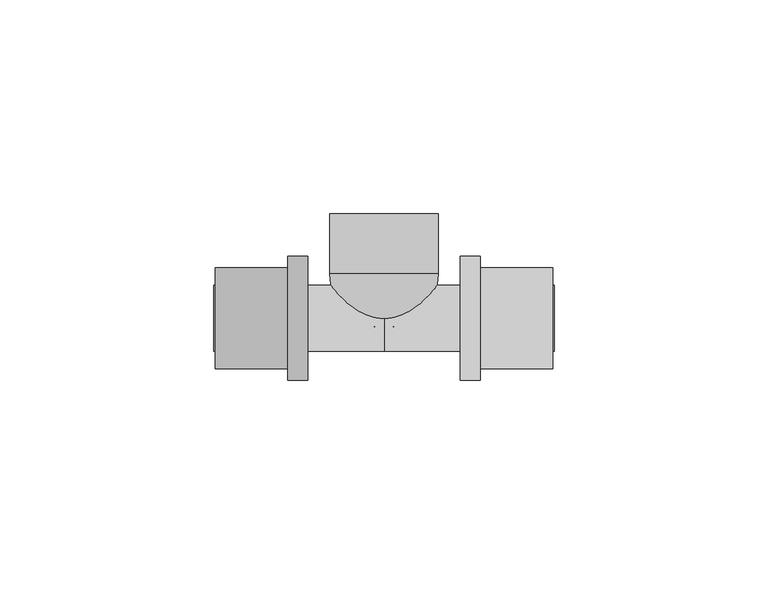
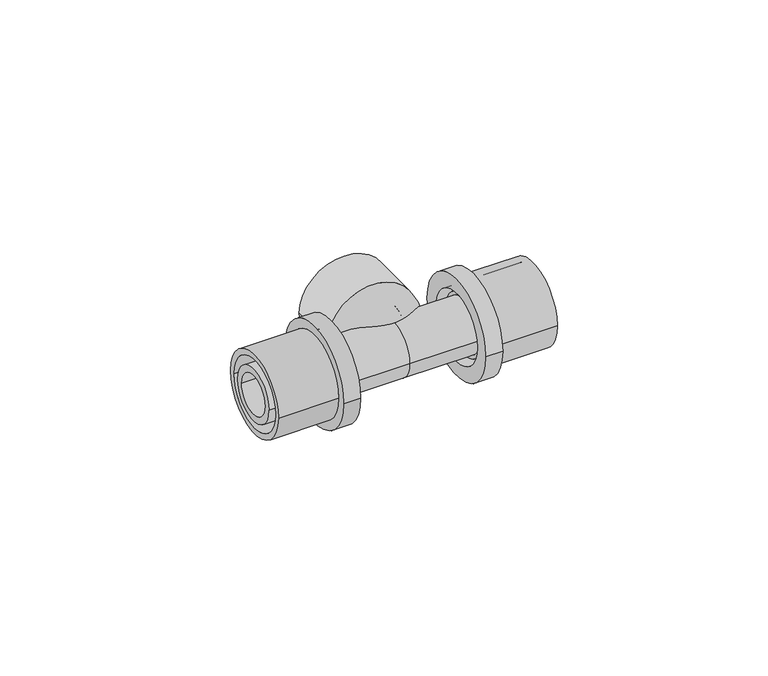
"""IFC4 building model written with IfcOpenShell, lengths in millimetres: pipe fitting geometry, FASTLOC_T-piece internal thread EX+ : FSL T thread EX+ AT."""

from ifc_helpers import new_model, si_unit, point, frame, origin, place, context, project, spatial, polyline, circle_curve, ellipse_curve, trimmed, source, transform, mapped, element, save
from ifc_brep_helpers import plane_surface, cylinder_surface, revolved_surface, advanced_brep


def pipe_fitting_92973462(model_context):
    return source(origin(), model_context, "Body", "AdvancedBrep", [
        advanced_brep(
        [(22.5, 14.5, 0.0), (22.5, -14.5, 0.0), (17.8, -14.5, 0.0), (17.8, 14.5, 0.0), (39.5, 11.85, 0.0), (39.5, -11.85, 0.0), (22.5, -11.85, 0.0), (22.5, 11.85, 0.0), (17.8, 10.15, 0.0), (17.8, -10.15, 0.0), (39.5, -10.15, 0.0), (39.5, 10.15, 0.0)],
        [
            (0, 1, circle_curve(frame((22.5, 0.0, 0.0), z_axis=(-1.0, 0.0, 0.0), x_axis=(0.0, -1.0, 0.0)), 14.5)),
            (1, 2),
            (2, 3, circle_curve(frame((17.8, 0.0, 0.0), z_axis=(1.0, 0.0, 0.0), x_axis=(0.0, -1.0, 0.0)), 14.5)),
            (3, 0),
            (4, 5, circle_curve(frame((39.5, 0.0, 0.0), z_axis=(-1.0, 0.0, 0.0), x_axis=(0.0, -1.0, 0.0)), 11.85)),
            (5, 6),
            (6, 7, circle_curve(frame((22.5, 0.0, 0.0), z_axis=(1.0, 0.0, 0.0), x_axis=(0.0, -1.0, 0.0)), 11.85)),
            (7, 4),
            (8, 9, circle_curve(frame((17.8, 0.0, 0.0), z_axis=(-1.0, 0.0, 0.0), x_axis=(0.0, -1.0, 0.0)), 10.15)),
            (9, 10),
            (10, 11, circle_curve(frame((39.5, 0.0, 0.0), z_axis=(1.0, 0.0, 0.0), x_axis=(0.0, -1.0, 0.0)), 10.15)),
            (11, 8),
            (1, 0, circle_curve(frame((22.5, 0.0, 0.0), z_axis=(-1.0, 0.0, 0.0), x_axis=(0.0, 1.0, 0.0)), 14.5)),
            (3, 2, circle_curve(frame((17.8, 0.0, 0.0), z_axis=(1.0, 0.0, 0.0), x_axis=(0.0, 1.0, 0.0)), 14.5)),
            (6, 7, circle_curve(frame((22.5, 0.0, 0.0), z_axis=(-1.0, 0.0, 0.0), x_axis=(0.0, 1.0, 0.0)), 11.85)),
            (5, 4, circle_curve(frame((39.5, 0.0, 0.0), z_axis=(-1.0, 0.0, 0.0), x_axis=(0.0, 1.0, 0.0)), 11.85)),
            (10, 11, circle_curve(frame((39.5, 0.0, 0.0), z_axis=(-1.0, 0.0, 0.0), x_axis=(0.0, 1.0, 0.0)), 10.15)),
            (9, 8, circle_curve(frame((17.8, 0.0, 0.0), z_axis=(-1.0, 0.0, 0.0), x_axis=(0.0, 1.0, 0.0)), 10.15)),
        ],
        [
            cylinder_surface(frame((17.8, 0.0, 0.0), z_axis=(1.0, 0.0, 0.0), x_axis=(0.0, -1.0, 0.0)), 14.5),
            cylinder_surface(frame((17.8, 0.0, 0.0), z_axis=(1.0, 0.0, 0.0), x_axis=(0.0, -1.0, 0.0)), 11.85),
            revolved_surface(polyline([(39.5, -10.15, 0.0), (17.8, -10.15, 0.0)]), (17.8, 0.0, 0.0), (1.0, 0.0, 0.0)),
            cylinder_surface(frame((17.8, 0.0, 0.0), z_axis=(1.0, 0.0, 0.0), x_axis=(0.0, 1.0, 0.0)), 14.5),
            plane_surface(frame((22.5, 0.0, 0.0), z_axis=(1.0, 0.0, 0.0), x_axis=(0.0, 1.0, 0.0))),
            cylinder_surface(frame((17.8, 0.0, 0.0), z_axis=(1.0, 0.0, 0.0), x_axis=(0.0, 1.0, 0.0)), 11.85),
            plane_surface(frame((39.5, 0.0, 0.0), z_axis=(1.0, 0.0, 0.0), x_axis=(0.0, 1.0, 0.0))),
            revolved_surface(polyline([(39.5, 10.15, 0.0), (17.8, 10.15, 0.0)]), (17.8, 0.0, 0.0), (1.0, 0.0, 0.0)),
            plane_surface(frame((17.8, 0.0, 0.0), z_axis=(-1.0, 0.0, 0.0), x_axis=(0.0, 1.0, 0.0))),
        ],
        [
            (0, [[1, 2, 3, 4]]),
            (1, [[5, 6, 7, 8]]),
            (2, [[9, 10, 11, 12]]),
            (3, [[13, -4, 14, -2]]),
            (4, [[-13, -1], [15, -7]]),
            (5, [[16, -8, -15, -6]]),
            (6, [[-16, -5], [17, -11]]),
            (7, [[18, -12, -17, -10]]),
            (8, [[-14, -3], [-18, -9]]),
        ],
    ),
        advanced_brep(
        [(-22.5, -14.5, 0.0), (-22.5, 14.5, 0.0), (-17.8, 14.5, 0.0), (-17.8, -14.5, 0.0), (-39.5, -11.85, 0.0), (-39.5, 11.85, 0.0), (-22.5, 11.85, 0.0), (-22.5, -11.85, 0.0), (-17.8, -10.15, 0.0), (-17.8, 10.15, 0.0), (-39.5, 10.15, 0.0), (-39.5, -10.15, 0.0)],
        [
            (0, 1, circle_curve(frame((-22.5, 0.0, 0.0), z_axis=(1.0, 0.0, 0.0), x_axis=(0.0, 1.0, 0.0)), 14.5)),
            (1, 2),
            (2, 3, circle_curve(frame((-17.8, 0.0, 0.0), z_axis=(-1.0, 0.0, 0.0), x_axis=(0.0, 1.0, 0.0)), 14.5)),
            (3, 0),
            (4, 5, circle_curve(frame((-39.5, 0.0, 0.0), z_axis=(1.0, 0.0, 0.0), x_axis=(0.0, 1.0, 0.0)), 11.85)),
            (5, 6),
            (6, 7, circle_curve(frame((-22.5, 0.0, 0.0), z_axis=(-1.0, 0.0, 0.0), x_axis=(0.0, 1.0, 0.0)), 11.85)),
            (7, 4),
            (8, 9, circle_curve(frame((-17.8, 0.0, 0.0), z_axis=(1.0, 0.0, 0.0), x_axis=(0.0, 1.0, 0.0)), 10.15)),
            (9, 10),
            (10, 11, circle_curve(frame((-39.5, 0.0, 0.0), z_axis=(-1.0, 0.0, 0.0), x_axis=(0.0, 1.0, 0.0)), 10.15)),
            (11, 8),
            (1, 0, circle_curve(frame((-22.5, 0.0, 0.0), z_axis=(1.0, 0.0, 0.0), x_axis=(0.0, -1.0, 0.0)), 14.5)),
            (3, 2, circle_curve(frame((-17.8, 0.0, 0.0), z_axis=(-1.0, 0.0, 0.0), x_axis=(0.0, -1.0, 0.0)), 14.5)),
            (6, 7, circle_curve(frame((-22.5, 0.0, 0.0), z_axis=(1.0, 0.0, 0.0), x_axis=(0.0, -1.0, 0.0)), 11.85)),
            (5, 4, circle_curve(frame((-39.5, 0.0, 0.0), z_axis=(1.0, 0.0, 0.0), x_axis=(0.0, -1.0, 0.0)), 11.85)),
            (10, 11, circle_curve(frame((-39.5, 0.0, 0.0), z_axis=(1.0, 0.0, 0.0), x_axis=(0.0, -1.0, 0.0)), 10.15)),
            (9, 8, circle_curve(frame((-17.8, 0.0, 0.0), z_axis=(1.0, 0.0, 0.0), x_axis=(0.0, -1.0, 0.0)), 10.15)),
        ],
        [
            cylinder_surface(frame((-17.8, 0.0, 0.0), z_axis=(-1.0, 0.0, 0.0), x_axis=(0.0, 1.0, 0.0)), 14.5),
            cylinder_surface(frame((-17.8, 0.0, 0.0), z_axis=(-1.0, 0.0, 0.0), x_axis=(0.0, 1.0, 0.0)), 11.85),
            revolved_surface(polyline([(-39.5, 10.15, 0.0), (-17.8, 10.15, 0.0)]), (-17.8, 0.0, 0.0), (-1.0, 0.0, 0.0)),
            cylinder_surface(frame((-17.8, 0.0, 0.0), z_axis=(-1.0, 0.0, 0.0), x_axis=(0.0, -1.0, 0.0)), 14.5),
            plane_surface(frame((-22.5, 0.0, 0.0), z_axis=(-1.0, 0.0, 0.0), x_axis=(0.0, -1.0, 0.0))),
            cylinder_surface(frame((-17.8, 0.0, 0.0), z_axis=(-1.0, 0.0, 0.0), x_axis=(0.0, -1.0, 0.0)), 11.85),
            plane_surface(frame((-39.5, 0.0, 0.0), z_axis=(-1.0, 0.0, 0.0), x_axis=(0.0, -1.0, 0.0))),
            revolved_surface(polyline([(-39.5, -10.15, 0.0), (-17.8, -10.15, 0.0)]), (-17.8, 0.0, 0.0), (-1.0, 0.0, 0.0)),
            plane_surface(frame((-17.8, 0.0, 0.0), z_axis=(1.0, 0.0, 0.0), x_axis=(0.0, -1.0, 0.0))),
        ],
        [
            (0, [[1, 2, 3, 4]]),
            (1, [[5, 6, 7, 8]]),
            (2, [[9, 10, 11, 12]]),
            (3, [[13, -4, 14, -2]]),
            (4, [[-13, -1], [15, -7]]),
            (5, [[16, -8, -15, -6]]),
            (6, [[-16, -5], [17, -11]]),
            (7, [[18, -12, -17, -10]]),
            (8, [[-14, -3], [-18, -9]]),
        ],
    ),
        advanced_brep(
        [(0.5, -2.3401923, 0.0), (-0.5, -2.3401923, 0.0), (-12.75, 10.4, 0.0), (12.75, 10.4, 0.0), (0.5, 2.9166852, 0.0), (-0.5, 2.9166852, 0.0), (7.5, 10.4, 0.0), (-7.5, 10.4, 0.0), (7.5, 24.5, 0.0), (-7.5, 24.5, 0.0), (-12.75, 24.5, 0.0), (12.75, 24.5, 0.0)],
        [
            (0, 1, circle_curve(frame((0.0, -2.3401923, 0.0), z_axis=(0.0, 1.0, 0.0), x_axis=(-1.0, 0.0, 0.0)), 0.5)),
            (1, 2, circle_curve(frame((0.0, 10.4, 0.0), z_axis=(0.0, 0.0, -1.0), x_axis=(0.0, 1.0, 0.0)), 12.75)),
            (2, 3, circle_curve(frame((0.0, 10.4, 0.0), z_axis=(0.0, -1.0, 0.0), x_axis=(-1.0, 0.0, 0.0)), 12.75)),
            (3, 0, circle_curve(frame((0.0, 10.4, 0.0), z_axis=(0.0, 0.0, -1.0), x_axis=(0.0, 1.0, 0.0)), 12.75)),
            (4, 5, circle_curve(frame((0.0, 2.9166852, 0.0), z_axis=(0.0, 1.0, 0.0), x_axis=(-1.0, 0.0, 0.0)), 0.5)),
            (5, 1),
            (0, 4),
            (6, 7, circle_curve(frame((0.0, 10.4, 0.0), z_axis=(0.0, 1.0, 0.0), x_axis=(-1.0, 0.0, 0.0)), 7.5)),
            (7, 5, circle_curve(frame((0.0, 10.4, 0.0), z_axis=(0.0, 0.0, 1.0), x_axis=(0.0, 1.0, 0.0)), 7.5)),
            (4, 6, circle_curve(frame((0.0, 10.4, 0.0), z_axis=(0.0, 0.0, 1.0), x_axis=(0.0, 1.0, 0.0)), 7.5)),
            (8, 9, circle_curve(frame((0.0, 24.5, 0.0), z_axis=(0.0, 1.0, 0.0), x_axis=(-1.0, 0.0, 0.0)), 7.5)),
            (9, 7),
            (6, 8),
            (2, 10),
            (10, 11, circle_curve(frame((0.0, 24.5, 0.0), z_axis=(0.0, -1.0, 0.0), x_axis=(-1.0, 0.0, 0.0)), 12.75)),
            (11, 3),
            (1, 0, circle_curve(frame((0.0, -2.3401923, 0.0), z_axis=(0.0, 1.0, 0.0), x_axis=(1.0, 0.0, 0.0)), 0.5)),
            (3, 2, circle_curve(frame((0.0, 10.4, 0.0), z_axis=(0.0, -1.0, 0.0), x_axis=(1.0, 0.0, 0.0)), 12.75)),
            (5, 4, circle_curve(frame((0.0, 2.9166852, 0.0), z_axis=(0.0, 1.0, 0.0), x_axis=(1.0, 0.0, 0.0)), 0.5)),
            (7, 6, circle_curve(frame((0.0, 10.4, 0.0), z_axis=(0.0, 1.0, 0.0), x_axis=(1.0, 0.0, 0.0)), 7.5)),
            (9, 8, circle_curve(frame((0.0, 24.5, 0.0), z_axis=(0.0, 1.0, 0.0), x_axis=(1.0, 0.0, 0.0)), 7.5)),
            (10, 11, circle_curve(frame((0.0, 24.5, 0.0), z_axis=(0.0, 1.0, 0.0), x_axis=(1.0, 0.0, 0.0)), 12.75)),
        ],
        [
            revolved_surface(trimmed(ellipse_curve(frame((0.0, 10.4, 0.0), z_axis=(0.0, 0.0, 1.0), x_axis=(0.0, 1.0, 0.0)), 12.75, 12.75), [point((-12.75, 10.4, 0.0))], [point((-0.5, -2.3401923, 0.0))], True, "CARTESIAN"), (0.0, 0.0, 0.0), (0.0, -1.0, 0.0)),
            revolved_surface(polyline([(-0.5, -2.3401923, 0.0), (-0.5, 2.9166852, 0.0)]), (0.0, 0.0, 0.0), (0.0, -1.0, 0.0)),
            revolved_surface(trimmed(ellipse_curve(frame((0.0, 10.4, 0.0), z_axis=(0.0, 0.0, -1.0), x_axis=(0.0, 1.0, 0.0)), 7.5, 7.5), [point((-0.5, 2.9166852, 0.0))], [point((-7.5, 10.4, 0.0))], True, "CARTESIAN"), (0.0, 0.0, 0.0), (0.0, -1.0, 0.0)),
            revolved_surface(polyline([(-7.5, 10.4, 0.0), (-7.5, 24.5, 0.0)]), (0.0, 0.0, 0.0), (0.0, -1.0, 0.0)),
            cylinder_surface(frame((0.0, 0.0, 0.0), z_axis=(0.0, -1.0, 0.0), x_axis=(-1.0, 0.0, 0.0)), 12.75),
            revolved_surface(trimmed(ellipse_curve(frame((0.0, 10.4, 0.0), z_axis=(0.0, 0.0, -1.0), x_axis=(0.0, 1.0, 0.0)), 12.75, 12.75), [point((12.75, 10.4, 0.0))], [point((0.5, -2.3401923, 0.0))], True, "CARTESIAN"), (0.0, 0.0, 0.0), (0.0, -1.0, 0.0)),
            revolved_surface(polyline([(0.5, -2.3401923, 0.0), (0.5, 2.9166852, 0.0)]), (0.0, 0.0, 0.0), (0.0, -1.0, 0.0)),
            revolved_surface(trimmed(ellipse_curve(frame((0.0, 10.4, 0.0), z_axis=(0.0, 0.0, 1.0), x_axis=(0.0, 1.0, 0.0)), 7.5, 7.5), [point((0.5, 2.9166852, 0.0))], [point((7.5, 10.4, 0.0))], True, "CARTESIAN"), (0.0, 0.0, 0.0), (0.0, -1.0, 0.0)),
            revolved_surface(polyline([(7.5, 10.4, 0.0), (7.5, 24.5, 0.0)]), (0.0, 0.0, 0.0), (0.0, -1.0, 0.0)),
            plane_surface(frame((0.0, 24.5, 0.0), z_axis=(0.0, 1.0, 0.0), x_axis=(1.0, 0.0, 0.0))),
            cylinder_surface(frame((0.0, 0.0, 0.0), z_axis=(0.0, -1.0, 0.0), x_axis=(1.0, 0.0, 0.0)), 12.75),
        ],
        [
            (0, [[1, 2, 3, 4]]),
            (1, [[5, 6, -1, 7]]),
            (2, [[8, 9, -5, 10]]),
            (3, [[11, 12, -8, 13]]),
            (4, [[-3, 14, 15, 16]]),
            (5, [[17, -4, 18, -2]]),
            (6, [[19, -7, -17, -6]]),
            (7, [[20, -10, -19, -9]]),
            (8, [[21, -13, -20, -12]]),
            (9, [[22, -15], [-21, -11]]),
            (10, [[-18, -16, -22, -14]]),
        ],
    ),
        advanced_brep(
        [(22.5, 8.8, 0.0), (22.5, -8.8, 0.0), (19.8, -8.8, 0.0), (19.8, 8.8, 0.0), (39.9, 7.75, 0.0), (39.9, -7.75, 0.0), (22.5, -7.75, 0.0), (22.5, 7.75, 0.0), (-39.9, 5.75, 0.0), (-39.9, -5.75, 0.0), (39.9, -5.75, 0.0), (39.9, 5.75, 0.0), (-22.5, 7.75, 0.0), (-22.5, -7.75, 0.0), (-39.9, -7.75, 0.0), (-39.9, 7.75, 0.0), (-19.8, 8.8, 0.0), (-19.8, -8.8, 0.0), (-22.5, -8.8, 0.0), (-22.5, 8.8, 0.0), (0.0, 7.75, 0.0), (0.0, -7.75, 0.0), (-19.8, -7.75, 0.0), (-19.8, 7.75, 0.0), (19.8, 7.75, 0.0), (19.8, -7.75, 0.0)],
        [
            (0, 1, circle_curve(frame((22.5, 0.0, 0.0), z_axis=(-1.0, 0.0, 0.0), x_axis=(0.0, -1.0, 0.0)), 8.8)),
            (1, 2),
            (2, 3, circle_curve(frame((19.8, 0.0, 0.0), z_axis=(1.0, 0.0, 0.0), x_axis=(0.0, -1.0, 0.0)), 8.8)),
            (3, 0),
            (4, 5, circle_curve(frame((39.9, 0.0, 0.0), z_axis=(-1.0, 0.0, 0.0), x_axis=(0.0, -1.0, 0.0)), 7.75)),
            (5, 6),
            (6, 7, circle_curve(frame((22.5, 0.0, 0.0), z_axis=(1.0, 0.0, 0.0), x_axis=(0.0, -1.0, 0.0)), 7.75)),
            (7, 4),
            (8, 9, circle_curve(frame((-39.9, 0.0, 0.0), z_axis=(-1.0, 0.0, 0.0), x_axis=(0.0, -1.0, 0.0)), 5.75)),
            (9, 10),
            (10, 11, circle_curve(frame((39.9, 0.0, 0.0), z_axis=(1.0, 0.0, 0.0), x_axis=(0.0, -1.0, 0.0)), 5.75)),
            (11, 8),
            (12, 13, circle_curve(frame((-22.5, 0.0, 0.0), z_axis=(-1.0, 0.0, 0.0), x_axis=(0.0, -1.0, 0.0)), 7.75)),
            (13, 14),
            (14, 15, circle_curve(frame((-39.9, 0.0, 0.0), z_axis=(1.0, 0.0, 0.0), x_axis=(0.0, -1.0, 0.0)), 7.75)),
            (15, 12),
            (16, 17, circle_curve(frame((-19.8, 0.0, 0.0), z_axis=(-1.0, 0.0, 0.0), x_axis=(0.0, -1.0, 0.0)), 8.8)),
            (17, 18),
            (18, 19, circle_curve(frame((-22.5, 0.0, 0.0), z_axis=(1.0, 0.0, 0.0), x_axis=(0.0, -1.0, 0.0)), 8.8)),
            (19, 16),
            (20, 21, circle_curve(frame((0.0, 0.0, 0.0), z_axis=(-1.0, 0.0, 0.0), x_axis=(0.0, -1.0, 0.0)), 7.75)),
            (21, 22),
            (22, 23, circle_curve(frame((-19.8, 0.0, 0.0), z_axis=(1.0, 0.0, 0.0), x_axis=(0.0, -1.0, 0.0)), 7.75)),
            (23, 20),
            (24, 25, circle_curve(frame((19.8, 0.0, 0.0), z_axis=(-1.0, 0.0, 0.0), x_axis=(0.0, -1.0, 0.0)), 7.75)),
            (25, 21),
            (20, 24),
            (1, 0, circle_curve(frame((22.5, 0.0, 0.0), z_axis=(-1.0, 0.0, 0.0), x_axis=(0.0, 1.0, 0.0)), 8.8)),
            (3, 2, circle_curve(frame((19.8, 0.0, 0.0), z_axis=(1.0, 0.0, 0.0), x_axis=(0.0, 1.0, 0.0)), 8.8)),
            (6, 7, circle_curve(frame((22.5, 0.0, 0.0), z_axis=(-1.0, 0.0, 0.0), x_axis=(0.0, 1.0, 0.0)), 7.75)),
            (5, 4, circle_curve(frame((39.9, 0.0, 0.0), z_axis=(-1.0, 0.0, 0.0), x_axis=(0.0, 1.0, 0.0)), 7.75)),
            (10, 11, circle_curve(frame((39.9, 0.0, 0.0), z_axis=(-1.0, 0.0, 0.0), x_axis=(0.0, 1.0, 0.0)), 5.75)),
            (9, 8, circle_curve(frame((-39.9, 0.0, 0.0), z_axis=(-1.0, 0.0, 0.0), x_axis=(0.0, 1.0, 0.0)), 5.75)),
            (14, 15, circle_curve(frame((-39.9, 0.0, 0.0), z_axis=(-1.0, 0.0, 0.0), x_axis=(0.0, 1.0, 0.0)), 7.75)),
            (13, 12, circle_curve(frame((-22.5, 0.0, 0.0), z_axis=(-1.0, 0.0, 0.0), x_axis=(0.0, 1.0, 0.0)), 7.75)),
            (18, 19, circle_curve(frame((-22.5, 0.0, 0.0), z_axis=(-1.0, 0.0, 0.0), x_axis=(0.0, 1.0, 0.0)), 8.8)),
            (17, 16, circle_curve(frame((-19.8, 0.0, 0.0), z_axis=(-1.0, 0.0, 0.0), x_axis=(0.0, 1.0, 0.0)), 8.8)),
            (22, 23, circle_curve(frame((-19.8, 0.0, 0.0), z_axis=(-1.0, 0.0, 0.0), x_axis=(0.0, 1.0, 0.0)), 7.75)),
            (21, 20, circle_curve(frame((0.0, 0.0, 0.0), z_axis=(-1.0, 0.0, 0.0), x_axis=(0.0, 1.0, 0.0)), 7.75)),
            (25, 24, circle_curve(frame((19.8, 0.0, 0.0), z_axis=(-1.0, 0.0, 0.0), x_axis=(0.0, 1.0, 0.0)), 7.75)),
        ],
        [
            cylinder_surface(frame((0.0, 0.0, 0.0), z_axis=(1.0, 0.0, 0.0), x_axis=(0.0, -1.0, 0.0)), 8.8),
            cylinder_surface(frame((0.0, 0.0, 0.0), z_axis=(1.0, 0.0, 0.0), x_axis=(0.0, -1.0, 0.0)), 7.75),
            revolved_surface(polyline([(39.9, -5.75, 0.0), (-39.9, -5.75, 0.0)]), (0.0, 0.0, 0.0), (1.0, 0.0, 0.0)),
            cylinder_surface(frame((0.0, 0.0, 0.0), z_axis=(1.0, 0.0, 0.0), x_axis=(0.0, 1.0, 0.0)), 8.8),
            plane_surface(frame((22.5, 0.0, 0.0), z_axis=(1.0, 0.0, 0.0), x_axis=(0.0, 1.0, 0.0))),
            cylinder_surface(frame((0.0, 0.0, 0.0), z_axis=(1.0, 0.0, 0.0), x_axis=(0.0, 1.0, 0.0)), 7.75),
            plane_surface(frame((39.9, 0.0, 0.0), z_axis=(1.0, 0.0, 0.0), x_axis=(0.0, 1.0, 0.0))),
            revolved_surface(polyline([(39.9, 5.75, 0.0), (-39.9, 5.75, 0.0)]), (0.0, 0.0, 0.0), (1.0, 0.0, 0.0)),
            plane_surface(frame((-39.9, 0.0, 0.0), z_axis=(-1.0, 0.0, 0.0), x_axis=(0.0, 1.0, 0.0))),
            plane_surface(frame((-22.5, 0.0, 0.0), z_axis=(-1.0, 0.0, 0.0), x_axis=(0.0, 1.0, 0.0))),
            plane_surface(frame((-19.8, 0.0, 0.0), z_axis=(1.0, 0.0, 0.0), x_axis=(0.0, 1.0, 0.0))),
            plane_surface(frame((19.8, 0.0, 0.0), z_axis=(-1.0, 0.0, 0.0), x_axis=(0.0, 1.0, 0.0))),
        ],
        [
            (0, [[1, 2, 3, 4]]),
            (1, [[5, 6, 7, 8]]),
            (2, [[9, 10, 11, 12]]),
            (1, [[13, 14, 15, 16]]),
            (0, [[17, 18, 19, 20]]),
            (1, [[21, 22, 23, 24]]),
            (1, [[25, 26, -21, 27]]),
            (3, [[28, -4, 29, -2]]),
            (4, [[-28, -1], [30, -7]]),
            (5, [[31, -8, -30, -6]]),
            (6, [[-31, -5], [32, -11]]),
            (7, [[33, -12, -32, -10]]),
            (8, [[34, -15], [-33, -9]]),
            (5, [[35, -16, -34, -14]]),
            (9, [[36, -19], [-35, -13]]),
            (3, [[37, -20, -36, -18]]),
            (10, [[-37, -17], [38, -23]]),
            (5, [[39, -24, -38, -22]]),
            (5, [[40, -27, -39, -26]]),
            (11, [[-29, -3], [-40, -25]]),
        ],
    ),
    ])


if __name__ == "__main__":
    model = new_model("IFC4")
    model_context = context("Model", 3, world=origin())
    ifc_project = project(units=[si_unit("LENGTHUNIT", "METRE", prefix="MILLI")], contexts=[model_context])
    site = spatial("IfcSite", under=ifc_project)
    building = spatial("IfcBuilding", under=site)
    placement = place(None, origin())
    pipe_fitting_shape = pipe_fitting_92973462(model_context)
    element("IfcPipeFitting", 1, ObjectType="FASTLOC_T-piece internal thread EX+ : FSL T thread EX+ AT", at=placement, inside=building, context=model_context, shape_type="MappedRepresentation", body=[
        mapped(pipe_fitting_shape, transform((0.0, 0.0, 0.0), x_axis=(1.0, 0.0, 0.0), y_axis=(0.0, 1.0, 0.0), z_axis=(0.0, 0.0, 1.0))),
    ])
    save(model, "model.ifc")
